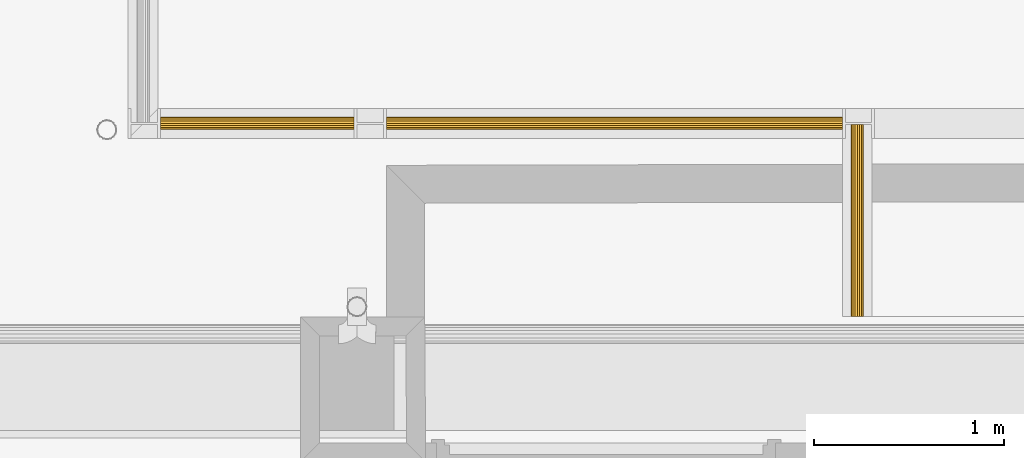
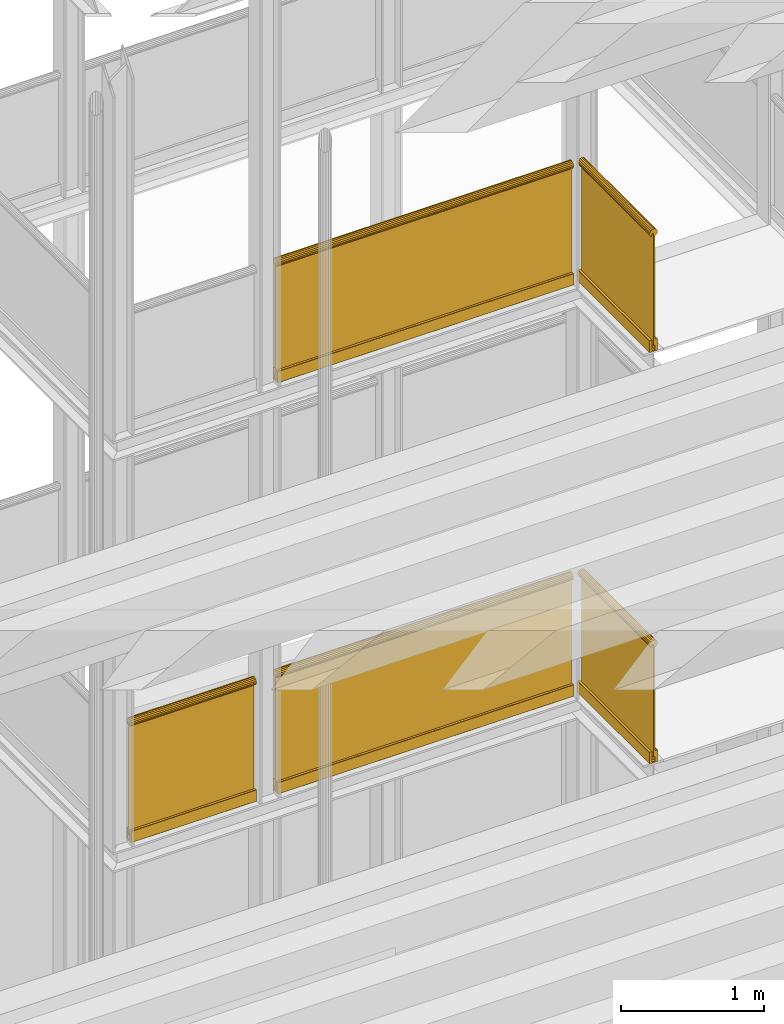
# One storey, part 31 of 108: 5 railings.
"""IFC2X3 building model written with IfcOpenShell, lengths in metres."""

from ifc_helpers import new_model, entity, si_unit, converted_unit, derived_unit, money_unit, direction, frame, origin_with_axes, place, context, subcontext, project, spatial, faceted_brep, material, type_object, element, save


model = new_model("IFC2X3")

# Units and contexts
model_context = context("Model", 3, precision=1e-05, world=origin_with_axes(), true_north=direction((0.0, 1.0)))
body_context = subcontext(model_context, "Body", "Model", "MODEL_VIEW", scale=1.0)
ifc_project = project(units=[si_unit("LENGTHUNIT", "METRE"), si_unit("AREAUNIT", "SQUARE_METRE"), si_unit("VOLUMEUNIT", "CUBIC_METRE"), si_unit("ABSORBEDDOSEUNIT", "GRAY"), si_unit("AMOUNTOFSUBSTANCEUNIT", "MOLE"), si_unit("DOSEEQUIVALENTUNIT", "SIEVERT"), si_unit("ELECTRICCAPACITANCEUNIT", "FARAD"), si_unit("ELECTRICCHARGEUNIT", "COULOMB"), si_unit("ELECTRICCONDUCTANCEUNIT", "SIEMENS"), si_unit("ELECTRICCURRENTUNIT", "AMPERE"), si_unit("ELECTRICRESISTANCEUNIT", "OHM"), si_unit("ELECTRICVOLTAGEUNIT", "VOLT"), si_unit("ENERGYUNIT", "JOULE"), si_unit("FORCEUNIT", "NEWTON"), si_unit("FREQUENCYUNIT", "HERTZ"), si_unit("ILLUMINANCEUNIT", "LUX"), si_unit("INDUCTANCEUNIT", "HENRY"), si_unit("LUMINOUSFLUXUNIT", "LUMEN"), si_unit("LUMINOUSINTENSITYUNIT", "CANDELA"), si_unit("MAGNETICFLUXDENSITYUNIT", "TESLA"), si_unit("MAGNETICFLUXUNIT", "WEBER"), si_unit("MASSUNIT", "GRAM"), converted_unit("PLANEANGLEUNIT", "degree", entity("IfcReal", 0.0174532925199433), si_unit("PLANEANGLEUNIT", "RADIAN"), dimensions=[0, 0, 0, 0, 0, 0, 0]), si_unit("POWERUNIT", "WATT"), si_unit("PRESSUREUNIT", "PASCAL"), si_unit("RADIOACTIVITYUNIT", "BECQUEREL"), si_unit("SOLIDANGLEUNIT", "STERADIAN"), si_unit("THERMODYNAMICTEMPERATUREUNIT", "KELVIN"), si_unit("TIMEUNIT", "SECOND"), derived_unit("ACCELERATIONUNIT", [(si_unit("LENGTHUNIT", "METRE"), 1), (si_unit("TIMEUNIT", "SECOND"), -2)]), derived_unit("ANGULARVELOCITYUNIT", [(converted_unit("PLANEANGLEUNIT", "degree", entity("IfcReal", 0.0174532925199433), si_unit("PLANEANGLEUNIT", "RADIAN"), dimensions=[0, 0, 0, 0, 0, 0, 0]), 1), (si_unit("TIMEUNIT", "SECOND"), -1)]), derived_unit("CURVATUREUNIT", [(converted_unit("PLANEANGLEUNIT", "degree", entity("IfcReal", 0.0174532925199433), si_unit("PLANEANGLEUNIT", "RADIAN"), dimensions=[0, 0, 0, 0, 0, 0, 0]), 1), (si_unit("LENGTHUNIT", "METRE"), -1)]), derived_unit("DYNAMICVISCOSITYUNIT", [(si_unit("PRESSUREUNIT", "PASCAL"), 1), (si_unit("TIMEUNIT", "SECOND"), 1)]), derived_unit("HEATFLUXDENSITYUNIT", [(si_unit("POWERUNIT", "WATT"), 1), (si_unit("LENGTHUNIT", "METRE"), -2)]), derived_unit("HEATINGVALUEUNIT", [(si_unit("ENERGYUNIT", "JOULE"), 1), (si_unit("MASSUNIT", "GRAM"), -1)]), derived_unit("INTEGERCOUNTRATEUNIT", [(si_unit("TIMEUNIT", "SECOND"), -1)]), derived_unit("IONCONCENTRATIONUNIT", [(si_unit("MASSUNIT", "GRAM"), 1), (si_unit("VOLUMEUNIT", "CUBIC_METRE"), -1)]), derived_unit("ISOTHERMALMOISTURECAPACITYUNIT", [(si_unit("VOLUMEUNIT", "CUBIC_METRE"), 1), (si_unit("MASSUNIT", "GRAM"), -1)]), derived_unit("KINEMATICVISCOSITYUNIT", [(si_unit("AREAUNIT", "SQUARE_METRE"), 1), (si_unit("TIMEUNIT", "SECOND"), -1)]), derived_unit("LINEARFORCEUNIT", [(si_unit("FORCEUNIT", "NEWTON"), 1), (si_unit("LENGTHUNIT", "METRE"), -1)]), derived_unit("LINEARMOMENTUNIT", [(si_unit("FORCEUNIT", "NEWTON"), 1), (si_unit("LENGTHUNIT", "METRE"), -1)]), derived_unit("LINEARSTIFFNESSUNIT", [(si_unit("FORCEUNIT", "NEWTON"), 1), (si_unit("LENGTHUNIT", "METRE"), -1)]), derived_unit("LINEARVELOCITYUNIT", [(si_unit("LENGTHUNIT", "METRE"), 1), (si_unit("TIMEUNIT", "SECOND"), -1)]), derived_unit("LUMINOUSINTENSITYDISTRIBUTIONUNIT", [(si_unit("LUMINOUSINTENSITYUNIT", "CANDELA"), 1), (si_unit("LUMINOUSFLUXUNIT", "LUMEN"), -1)]), derived_unit("MASSDENSITYUNIT", [(si_unit("MASSUNIT", "GRAM"), 1), (si_unit("VOLUMEUNIT", "CUBIC_METRE"), -1)]), derived_unit("MASSFLOWRATEUNIT", [(si_unit("MASSUNIT", "GRAM"), 1), (si_unit("TIMEUNIT", "SECOND"), -1)]), derived_unit("MASSPERLENGTHUNIT", [(si_unit("MASSUNIT", "GRAM"), 1), (si_unit("LENGTHUNIT", "METRE"), -1)]), derived_unit("MODULUSOFELASTICITYUNIT", [(si_unit("FORCEUNIT", "NEWTON"), 1), (si_unit("AREAUNIT", "SQUARE_METRE"), -1)]), derived_unit("MODULUSOFLINEARSUBGRADEREACTIONUNIT", [(si_unit("FORCEUNIT", "NEWTON"), 1), (si_unit("LENGTHUNIT", "METRE"), -2)]), derived_unit("MODULUSOFROTATIONALSUBGRADEREACTIONUNIT", [(si_unit("FORCEUNIT", "NEWTON"), 1), (si_unit("LENGTHUNIT", "METRE"), 1)]), derived_unit("MODULUSOFSUBGRADEREACTIONUNIT", [(si_unit("FORCEUNIT", "NEWTON"), 1), (si_unit("VOLUMEUNIT", "CUBIC_METRE"), -1)]), derived_unit("MOISTUREDIFFUSIVITYUNIT", [(si_unit("VOLUMEUNIT", "CUBIC_METRE"), 1), (si_unit("TIMEUNIT", "SECOND"), -1)]), derived_unit("MOLECULARWEIGHTUNIT", [(si_unit("MASSUNIT", "GRAM"), 1), (si_unit("AMOUNTOFSUBSTANCEUNIT", "MOLE"), -1)]), derived_unit("PLANARFORCEUNIT", [(si_unit("FORCEUNIT", "NEWTON"), 1), (si_unit("LENGTHUNIT", "METRE"), -2)]), derived_unit("ROTATIONALFREQUENCYUNIT", [(si_unit("TIMEUNIT", "SECOND"), -1)]), derived_unit("ROTATIONALMASSUNIT", [(si_unit("MASSUNIT", "GRAM"), 1), (si_unit("LENGTHUNIT", "METRE"), 2)]), derived_unit("ROTATIONALSTIFFNESSUNIT", [(si_unit("FORCEUNIT", "NEWTON"), 1), (si_unit("LENGTHUNIT", "METRE"), 1), (converted_unit("PLANEANGLEUNIT", "degree", entity("IfcReal", 0.0174532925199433), si_unit("PLANEANGLEUNIT", "RADIAN"), dimensions=[0, 0, 0, 0, 0, 0, 0]), -1)]), derived_unit("SECTIONAREAINTEGRALUNIT", [(si_unit("LENGTHUNIT", "METRE"), 5)]), derived_unit("SECTIONMODULUSUNIT", [(si_unit("LENGTHUNIT", "METRE"), 3)]), derived_unit("SHEARMODULUSUNIT", [(si_unit("FORCEUNIT", "NEWTON"), 1), (si_unit("AREAUNIT", "SQUARE_METRE"), -1)]), derived_unit("SOUNDPOWERUNIT", [(si_unit("ENERGYUNIT", "JOULE"), 1), (si_unit("TIMEUNIT", "SECOND"), -1)]), derived_unit("SPECIFICHEATCAPACITYUNIT", [(si_unit("FORCEUNIT", "NEWTON"), 1), (si_unit("MASSUNIT", "GRAM"), -1), (si_unit("THERMODYNAMICTEMPERATUREUNIT", "KELVIN"), -1)]), derived_unit("TEMPERATUREGRADIENTUNIT", [(si_unit("THERMODYNAMICTEMPERATUREUNIT", "KELVIN"), 1), (si_unit("LENGTHUNIT", "METRE"), -1)]), derived_unit("THERMALADMITTANCEUNIT", [(si_unit("POWERUNIT", "WATT"), 1), (si_unit("AREAUNIT", "SQUARE_METRE"), -1), (si_unit("THERMODYNAMICTEMPERATUREUNIT", "KELVIN"), -1)]), derived_unit("THERMALCONDUCTANCEUNIT", [(si_unit("POWERUNIT", "WATT"), 1), (si_unit("LENGTHUNIT", "METRE"), -1), (si_unit("THERMODYNAMICTEMPERATUREUNIT", "KELVIN"), -1)]), derived_unit("THERMALEXPANSIONCOEFFICIENTUNIT", [(si_unit("THERMODYNAMICTEMPERATUREUNIT", "KELVIN"), -1)]), derived_unit("THERMALRESISTANCEUNIT", [(si_unit("AREAUNIT", "SQUARE_METRE"), 1), (si_unit("POWERUNIT", "WATT"), -1)]), derived_unit("THERMALTRANSMITTANCEUNIT", [(si_unit("POWERUNIT", "WATT"), 1), (si_unit("AREAUNIT", "SQUARE_METRE"), -1), (si_unit("THERMODYNAMICTEMPERATUREUNIT", "KELVIN"), -1)]), derived_unit("TORQUEUNIT", [(si_unit("FORCEUNIT", "NEWTON"), 1), (si_unit("LENGTHUNIT", "METRE"), 1)]), derived_unit("VAPORPERMEABILITYUNIT", [(si_unit("MASSUNIT", "GRAM"), 1), (si_unit("TIMEUNIT", "SECOND"), -1)]), derived_unit("VOLUMETRICFLOWRATEUNIT", [(si_unit("VOLUMEUNIT", "CUBIC_METRE"), 1), (si_unit("TIMEUNIT", "SECOND"), -1)]), derived_unit("WARPINGCONSTANTUNIT", [(si_unit("LENGTHUNIT", "METRE"), 6)]), derived_unit("WARPINGMOMENTUNIT", [(si_unit("FORCEUNIT", "NEWTON"), 1), (si_unit("LENGTHUNIT", "METRE"), 2)]), money_unit("GBP")], contexts=[model_context])

# Site, building, storey
site_placement = place(None, origin_with_axes())
site = spatial("IfcSite", under=ifc_project, at=site_placement, Name="Site", CompositionType="ELEMENT")
building_placement = place(site_placement, origin_with_axes())
building = spatial("IfcBuilding", under=site, at=building_placement, Name="Building01", CompositionType="ELEMENT")
storey_placement = place(building_placement, origin_with_axes())
storey = spatial("IfcBuildingStorey", under=building, at=storey_placement, Name="GF", CompositionType="ELEMENT", Elevation=0.0)

# Railings
ifc_material = material(Name="A_BSUK_Steel_Miscellaneous")
railing_type = type_object("IfcRailingType", Name="A-RailingGlassPanel-1050mm", PredefinedType="NOTDEFINED")
railing_1_placement = place(storey_placement, frame((24.848535, 14.9, 8.587442), z_axis=(0.0, 0.0, 1.0), x_axis=(1.0, 0.0, 0.0)))
element("IfcRailing", 1, at=railing_1_placement, inside=storey, type_object=railing_type, material=ifc_material, Name="A-RailingGlassPanel-1050mm", ObjectType="A-RailingGlassPanel-1050mm", PredefinedType="HANDRAIL", context=body_context, shape_type="Brep", body=[
    faceted_brep([(-0.0125, 1.010381, 0.9875), (-0.0125, 0.0, 0.9875), (-0.023022, 0.0, 0.99456), (-0.023022, 1.010381, 0.99456), (-0.030045, 0.0, 1.005108), (-0.030045, 1.010381, 1.005108), (-0.0325, 0.0, 1.017539), (-0.0325, 1.010381, 1.017539), (-0.030015, 0.0, 1.029964), (-0.030015, 1.010381, 1.029964), (-0.022967, 0.0, 1.040495), (-0.022967, 1.010381, 1.040495), (-0.012428, 0.0, 1.04753), (-0.012428, 1.010381, 1.04753), (0.0, 0.0, 1.05), (0.0, 1.010381, 1.05), (0.012428, 0.0, 1.04753), (0.012428, 1.010381, 1.04753), (0.022967, 0.0, 1.040495), (0.022967, 1.010381, 1.040495), (0.030015, 0.0, 1.029964), (0.030015, 1.010381, 1.029964), (0.0325, 0.0, 1.017539), (0.0325, 1.010381, 1.017539), (0.030045, 0.0, 1.005108), (0.030045, 1.010381, 1.005108), (0.023022, 0.0, 0.99456), (0.023022, 1.010381, 0.99456), (0.0125, 0.0, 0.9875), (0.0125, 1.010381, 0.9875), (-0.0125, 1.010381, 1.0125), (-0.0125, 0.0, 1.0125), (0.0125, 1.010381, 1.0125), (0.0125, 0.0, 1.0125)], [[[0, 1, 2, 3]], [[3, 2, 4, 5]], [[5, 4, 6, 7]], [[7, 6, 8, 9]], [[9, 8, 10, 11]], [[11, 10, 12, 13]], [[13, 12, 14, 15]], [[15, 14, 16, 17]], [[17, 16, 18, 19]], [[19, 18, 20, 21]], [[21, 20, 22, 23]], [[23, 22, 24, 25]], [[25, 24, 26, 27]], [[27, 26, 28, 29]], [[0, 30, 31, 1]], [[30, 32, 33, 31]], [[32, 30, 0, 3, 5, 7, 9, 11, 13, 15, 17, 19, 21, 23, 25, 27, 29]], [[32, 29, 28, 33]], [[28, 26, 24, 22, 20, 18, 16, 14, 12, 10, 8, 6, 4, 2, 1, 31, 33]]]),
    faceted_brep([(-0.0295, 1.010381, 0.099925), (-0.0295, 0.0, 0.099925), (-0.0125, 0.0, 0.099925), (-0.0125, 1.010381, 0.099925), (-0.0325, 1.010381, 0.096925), (-0.0325, 0.0, 0.096925), (-0.032272, 0.0, 0.098073), (-0.032272, 1.010381, 0.098073), (-0.031621, 0.0, 0.099046), (-0.031621, 1.010381, 0.099046), (-0.030648, 0.0, 0.099697), (-0.030648, 1.010381, 0.099697), (-0.0325, 1.010381, 0.003), (-0.0325, 0.0, 0.003), (-0.0295, 1.010381, 0.0), (-0.030648, 1.010381, 0.000228), (-0.031621, 1.010381, 0.000879), (-0.032272, 1.010381, 0.001852), (-0.0125, 1.010381, 0.01), (0.0125, 1.010381, 0.01), (0.0125, 1.010381, 0.099925), (0.0295, 1.010381, 0.099925), (0.030648, 1.010381, 0.099697), (0.031621, 1.010381, 0.099046), (0.032272, 1.010381, 0.098073), (0.0325, 1.010381, 0.096925), (0.0325, 1.010381, 0.003), (0.032272, 1.010381, 0.001852), (0.031621, 1.010381, 0.000879), (0.030648, 1.010381, 0.000228), (0.0295, 1.010381, 0.0), (0.0295, 0.0, 0.0), (0.030648, 0.0, 0.000228), (0.031621, 0.0, 0.000879), (0.032272, 0.0, 0.001852), (0.0325, 0.0, 0.003), (0.0325, 0.0, 0.096925), (0.032272, 0.0, 0.098073), (0.031621, 0.0, 0.099046), (0.030648, 0.0, 0.099697), (0.0295, 0.0, 0.099925), (0.0125, 0.0, 0.099925), (0.0125, 0.0, 0.01), (-0.0125, 0.0, 0.01), (-0.032272, 0.0, 0.001852), (-0.031621, 0.0, 0.000879), (-0.030648, 0.0, 0.000228), (-0.0295, 0.0, 0.0)], [[[0, 1, 2, 3]], [[4, 5, 6, 7]], [[7, 6, 8, 9]], [[9, 8, 10, 11]], [[11, 10, 1, 0]], [[4, 12, 13, 5]], [[14, 15, 16, 17, 12, 4, 7, 9, 11, 0, 3, 18, 19, 20, 21, 22, 23, 24, 25, 26, 27, 28, 29, 30]], [[31, 32, 33, 34, 35, 36, 37, 38, 39, 40, 41, 42, 43, 2, 1, 10, 8, 6, 5, 13, 44, 45, 46, 47]], [[14, 47, 46, 15]], [[15, 46, 45, 16]], [[16, 45, 44, 17]], [[17, 44, 13, 12]], [[14, 30, 31, 47]], [[26, 35, 34, 27]], [[27, 34, 33, 28]], [[28, 33, 32, 29]], [[29, 32, 31, 30]], [[26, 25, 36, 35]], [[21, 40, 39, 22]], [[22, 39, 38, 23]], [[23, 38, 37, 24]], [[24, 37, 36, 25]], [[21, 20, 41, 40]], [[20, 19, 42, 41]], [[19, 18, 43, 42]], [[18, 3, 2, 43]]]),
    faceted_brep([(0.0, 0.0, 0.05), (0.0, 0.0, 1.025), (0.0, 1.010381, 1.025), (0.0, 1.010381, 0.05), (0.01, 1.010381, 0.05), (0.01, 1.010381, 1.025), (0.01, 0.0, 1.025), (0.01, 0.0, 0.05)], [[[0, 1, 2, 3]], [[4, 5, 6, 7]], [[0, 7, 6, 1]], [[1, 6, 5, 2]], [[2, 5, 4, 3]], [[3, 4, 7, 0]]]),
])
railing_2_placement = place(storey_placement, frame((24.848535, 14.9, 5.064467), z_axis=(0.0, 0.0, 1.0), x_axis=(1.0, 0.0, 0.0)))
element("IfcRailing", 2, at=railing_2_placement, inside=storey, type_object=railing_type, material=ifc_material, Name="A-RailingGlassPanel-1050mm", ObjectType="A-RailingGlassPanel-1050mm", PredefinedType="HANDRAIL", context=body_context, shape_type="Brep", body=[
    faceted_brep([(-0.0125, 1.010381, 0.9875), (-0.0125, 0.0, 0.9875), (-0.023022, 0.0, 0.99456), (-0.023022, 1.010381, 0.99456), (-0.030045, 0.0, 1.005108), (-0.030045, 1.010381, 1.005108), (-0.0325, 0.0, 1.017539), (-0.0325, 1.010381, 1.017539), (-0.030015, 0.0, 1.029964), (-0.030015, 1.010381, 1.029964), (-0.022967, 0.0, 1.040495), (-0.022967, 1.010381, 1.040495), (-0.012428, 0.0, 1.04753), (-0.012428, 1.010381, 1.04753), (0.0, 0.0, 1.05), (0.0, 1.010381, 1.05), (0.012428, 0.0, 1.04753), (0.012428, 1.010381, 1.04753), (0.022967, 0.0, 1.040495), (0.022967, 1.010381, 1.040495), (0.030015, 0.0, 1.029964), (0.030015, 1.010381, 1.029964), (0.0325, 0.0, 1.017539), (0.0325, 1.010381, 1.017539), (0.030045, 0.0, 1.005108), (0.030045, 1.010381, 1.005108), (0.023022, 0.0, 0.99456), (0.023022, 1.010381, 0.99456), (0.0125, 0.0, 0.9875), (0.0125, 1.010381, 0.9875), (-0.0125, 1.010381, 1.0125), (-0.0125, 0.0, 1.0125), (0.0125, 1.010381, 1.0125), (0.0125, 0.0, 1.0125)], [[[0, 1, 2, 3]], [[3, 2, 4, 5]], [[5, 4, 6, 7]], [[7, 6, 8, 9]], [[9, 8, 10, 11]], [[11, 10, 12, 13]], [[13, 12, 14, 15]], [[15, 14, 16, 17]], [[17, 16, 18, 19]], [[19, 18, 20, 21]], [[21, 20, 22, 23]], [[23, 22, 24, 25]], [[25, 24, 26, 27]], [[27, 26, 28, 29]], [[0, 30, 31, 1]], [[30, 32, 33, 31]], [[32, 30, 0, 3, 5, 7, 9, 11, 13, 15, 17, 19, 21, 23, 25, 27, 29]], [[32, 29, 28, 33]], [[28, 26, 24, 22, 20, 18, 16, 14, 12, 10, 8, 6, 4, 2, 1, 31, 33]]]),
    faceted_brep([(-0.0295, 1.010381, 0.099925), (-0.0295, 0.0, 0.099925), (-0.0125, 0.0, 0.099925), (-0.0125, 1.010381, 0.099925), (-0.0325, 1.010381, 0.096925), (-0.0325, 0.0, 0.096925), (-0.032272, 0.0, 0.098073), (-0.032272, 1.010381, 0.098073), (-0.031621, 0.0, 0.099046), (-0.031621, 1.010381, 0.099046), (-0.030648, 0.0, 0.099697), (-0.030648, 1.010381, 0.099697), (-0.0325, 1.010381, 0.003), (-0.0325, 0.0, 0.003), (-0.0295, 1.010381, 0.0), (-0.030648, 1.010381, 0.000228), (-0.031621, 1.010381, 0.000879), (-0.032272, 1.010381, 0.001852), (-0.0125, 1.010381, 0.01), (0.0125, 1.010381, 0.01), (0.0125, 1.010381, 0.099925), (0.0295, 1.010381, 0.099925), (0.030648, 1.010381, 0.099697), (0.031621, 1.010381, 0.099046), (0.032272, 1.010381, 0.098073), (0.0325, 1.010381, 0.096925), (0.0325, 1.010381, 0.003), (0.032272, 1.010381, 0.001852), (0.031621, 1.010381, 0.000879), (0.030648, 1.010381, 0.000228), (0.0295, 1.010381, 0.0), (0.0295, 0.0, 0.0), (0.030648, 0.0, 0.000228), (0.031621, 0.0, 0.000879), (0.032272, 0.0, 0.001852), (0.0325, 0.0, 0.003), (0.0325, 0.0, 0.096925), (0.032272, 0.0, 0.098073), (0.031621, 0.0, 0.099046), (0.030648, 0.0, 0.099697), (0.0295, 0.0, 0.099925), (0.0125, 0.0, 0.099925), (0.0125, 0.0, 0.01), (-0.0125, 0.0, 0.01), (-0.032272, 0.0, 0.001852), (-0.031621, 0.0, 0.000879), (-0.030648, 0.0, 0.000228), (-0.0295, 0.0, 0.0)], [[[0, 1, 2, 3]], [[4, 5, 6, 7]], [[7, 6, 8, 9]], [[9, 8, 10, 11]], [[11, 10, 1, 0]], [[4, 12, 13, 5]], [[14, 15, 16, 17, 12, 4, 7, 9, 11, 0, 3, 18, 19, 20, 21, 22, 23, 24, 25, 26, 27, 28, 29, 30]], [[31, 32, 33, 34, 35, 36, 37, 38, 39, 40, 41, 42, 43, 2, 1, 10, 8, 6, 5, 13, 44, 45, 46, 47]], [[14, 47, 46, 15]], [[15, 46, 45, 16]], [[16, 45, 44, 17]], [[17, 44, 13, 12]], [[14, 30, 31, 47]], [[26, 35, 34, 27]], [[27, 34, 33, 28]], [[28, 33, 32, 29]], [[29, 32, 31, 30]], [[26, 25, 36, 35]], [[21, 40, 39, 22]], [[22, 39, 38, 23]], [[23, 38, 37, 24]], [[24, 37, 36, 25]], [[21, 20, 41, 40]], [[20, 19, 42, 41]], [[19, 18, 43, 42]], [[18, 3, 2, 43]]]),
    faceted_brep([(0.0, 0.0, 0.05), (0.0, 0.0, 1.025), (0.0, 1.010381, 1.025), (0.0, 1.010381, 0.05), (0.01, 1.010381, 0.05), (0.01, 1.010381, 1.025), (0.01, 0.0, 1.025), (0.01, 0.0, 0.05)], [[[0, 1, 2, 3]], [[4, 5, 6, 7]], [[0, 7, 6, 1]], [[1, 6, 5, 2]], [[2, 5, 4, 3]], [[3, 4, 7, 0]]]),
])
railing_3_placement = place(storey_placement, frame((24.769835, 15.915881, 8.587442), z_axis=(0.0, 0.0, 1.0), x_axis=(1.0, 0.0, 0.0)))
element("IfcRailing", 3, at=railing_3_placement, inside=storey, type_object=railing_type, material=ifc_material, Name="A-RailingGlassPanel-1050mm", ObjectType="A-RailingGlassPanel-1050mm", PredefinedType="HANDRAIL", context=body_context, shape_type="Brep", body=[
    faceted_brep([(-2.3998, -0.0125, 0.9875), (0.0, -0.0125, 0.9875), (0.0, -0.023022, 0.99456), (-2.3998, -0.023022, 0.99456), (0.0, -0.030045, 1.005108), (-2.3998, -0.030045, 1.005108), (0.0, -0.0325, 1.017539), (-2.3998, -0.0325, 1.017539), (0.0, -0.030015, 1.029964), (-2.3998, -0.030015, 1.029964), (0.0, -0.022967, 1.040495), (-2.3998, -0.022967, 1.040495), (0.0, -0.012428, 1.04753), (-2.3998, -0.012428, 1.04753), (0.0, 0.0, 1.05), (-2.3998, 0.0, 1.05), (0.0, 0.012428, 1.04753), (-2.3998, 0.012428, 1.04753), (0.0, 0.022967, 1.040495), (-2.3998, 0.022967, 1.040495), (0.0, 0.030015, 1.029964), (-2.3998, 0.030015, 1.029964), (0.0, 0.0325, 1.017539), (-2.3998, 0.0325, 1.017539), (0.0, 0.030045, 1.005108), (-2.3998, 0.030045, 1.005108), (0.0, 0.023022, 0.99456), (-2.3998, 0.023022, 0.99456), (0.0, 0.0125, 0.9875), (-2.3998, 0.0125, 0.9875), (-2.3998, -0.0125, 1.0125), (0.0, -0.0125, 1.0125), (-2.3998, 0.0125, 1.0125), (0.0, 0.0125, 1.0125)], [[[0, 1, 2, 3]], [[3, 2, 4, 5]], [[5, 4, 6, 7]], [[7, 6, 8, 9]], [[9, 8, 10, 11]], [[11, 10, 12, 13]], [[13, 12, 14, 15]], [[15, 14, 16, 17]], [[17, 16, 18, 19]], [[19, 18, 20, 21]], [[21, 20, 22, 23]], [[23, 22, 24, 25]], [[25, 24, 26, 27]], [[27, 26, 28, 29]], [[0, 30, 31, 1]], [[30, 32, 33, 31]], [[32, 30, 0, 3, 5, 7, 9, 11, 13, 15, 17, 19, 21, 23, 25, 27, 29]], [[32, 29, 28, 33]], [[28, 26, 24, 22, 20, 18, 16, 14, 12, 10, 8, 6, 4, 2, 1, 31, 33]]]),
    faceted_brep([(-2.3998, -0.0295, 0.099925), (0.0, -0.0295, 0.099925), (0.0, -0.0125, 0.099925), (-2.3998, -0.0125, 0.099925), (-2.3998, -0.0325, 0.096925), (0.0, -0.0325, 0.096925), (0.0, -0.032272, 0.098073), (-2.3998, -0.032272, 0.098073), (0.0, -0.031621, 0.099046), (-2.3998, -0.031621, 0.099046), (0.0, -0.030648, 0.099697), (-2.3998, -0.030648, 0.099697), (-2.3998, -0.0325, 0.003), (0.0, -0.0325, 0.003), (-2.3998, -0.0295, 0.0), (-2.3998, -0.030648, 0.000228), (-2.3998, -0.031621, 0.000879), (-2.3998, -0.032272, 0.001852), (-2.3998, -0.0125, 0.01), (-2.3998, 0.0125, 0.01), (-2.3998, 0.0125, 0.099925), (-2.3998, 0.0295, 0.099925), (-2.3998, 0.030648, 0.099697), (-2.3998, 0.031621, 0.099046), (-2.3998, 0.032272, 0.098073), (-2.3998, 0.0325, 0.096925), (-2.3998, 0.0325, 0.003), (-2.3998, 0.032272, 0.001852), (-2.3998, 0.031621, 0.000879), (-2.3998, 0.030648, 0.000228), (-2.3998, 0.0295, 0.0), (0.0, 0.0295, 0.0), (0.0, 0.030648, 0.000228), (0.0, 0.031621, 0.000879), (0.0, 0.032272, 0.001852), (0.0, 0.0325, 0.003), (0.0, 0.0325, 0.096925), (0.0, 0.032272, 0.098073), (0.0, 0.031621, 0.099046), (0.0, 0.030648, 0.099697), (0.0, 0.0295, 0.099925), (0.0, 0.0125, 0.099925), (0.0, 0.0125, 0.01), (0.0, -0.0125, 0.01), (0.0, -0.032272, 0.001852), (0.0, -0.031621, 0.000879), (0.0, -0.030648, 0.000228), (0.0, -0.0295, 0.0)], [[[0, 1, 2, 3]], [[4, 5, 6, 7]], [[7, 6, 8, 9]], [[9, 8, 10, 11]], [[11, 10, 1, 0]], [[4, 12, 13, 5]], [[14, 15, 16, 17, 12, 4, 7, 9, 11, 0, 3, 18, 19, 20, 21, 22, 23, 24, 25, 26, 27, 28, 29, 30]], [[31, 32, 33, 34, 35, 36, 37, 38, 39, 40, 41, 42, 43, 2, 1, 10, 8, 6, 5, 13, 44, 45, 46, 47]], [[14, 47, 46, 15]], [[15, 46, 45, 16]], [[16, 45, 44, 17]], [[17, 44, 13, 12]], [[14, 30, 31, 47]], [[26, 35, 34, 27]], [[27, 34, 33, 28]], [[28, 33, 32, 29]], [[29, 32, 31, 30]], [[26, 25, 36, 35]], [[21, 40, 39, 22]], [[22, 39, 38, 23]], [[23, 38, 37, 24]], [[24, 37, 36, 25]], [[21, 20, 41, 40]], [[20, 19, 42, 41]], [[19, 18, 43, 42]], [[18, 3, 2, 43]]]),
    faceted_brep([(0.0, 0.0, 0.05), (0.0, 0.0, 1.025), (-2.3998, 0.0, 1.025), (-2.3998, 0.0, 0.05), (-2.3998, 0.01, 0.05), (-2.3998, 0.01, 1.025), (0.0, 0.01, 1.025), (0.0, 0.01, 0.05)], [[[0, 1, 2, 3]], [[4, 5, 6, 7]], [[0, 7, 6, 1]], [[1, 6, 5, 2]], [[2, 5, 4, 3]], [[3, 4, 7, 0]]]),
])
railing_4_placement = place(storey_placement, frame((24.769835, 15.915881, 5.064467), z_axis=(0.0, 0.0, 1.0), x_axis=(1.0, 0.0, 0.0)))
element("IfcRailing", 4, at=railing_4_placement, inside=storey, type_object=railing_type, material=ifc_material, Name="A-RailingGlassPanel-1050mm", ObjectType="A-RailingGlassPanel-1050mm", PredefinedType="HANDRAIL", context=body_context, shape_type="Brep", body=[
    faceted_brep([(-2.3998, -0.0125, 0.9875), (0.0, -0.0125, 0.9875), (0.0, -0.023022, 0.99456), (-2.3998, -0.023022, 0.99456), (0.0, -0.030045, 1.005108), (-2.3998, -0.030045, 1.005108), (0.0, -0.0325, 1.017539), (-2.3998, -0.0325, 1.017539), (0.0, -0.030015, 1.029964), (-2.3998, -0.030015, 1.029964), (0.0, -0.022967, 1.040495), (-2.3998, -0.022967, 1.040495), (0.0, -0.012428, 1.04753), (-2.3998, -0.012428, 1.04753), (0.0, 0.0, 1.05), (-2.3998, 0.0, 1.05), (0.0, 0.012428, 1.04753), (-2.3998, 0.012428, 1.04753), (0.0, 0.022967, 1.040495), (-2.3998, 0.022967, 1.040495), (0.0, 0.030015, 1.029964), (-2.3998, 0.030015, 1.029964), (0.0, 0.0325, 1.017539), (-2.3998, 0.0325, 1.017539), (0.0, 0.030045, 1.005108), (-2.3998, 0.030045, 1.005108), (0.0, 0.023022, 0.99456), (-2.3998, 0.023022, 0.99456), (0.0, 0.0125, 0.9875), (-2.3998, 0.0125, 0.9875), (-2.3998, -0.0125, 1.0125), (0.0, -0.0125, 1.0125), (-2.3998, 0.0125, 1.0125), (0.0, 0.0125, 1.0125)], [[[0, 1, 2, 3]], [[3, 2, 4, 5]], [[5, 4, 6, 7]], [[7, 6, 8, 9]], [[9, 8, 10, 11]], [[11, 10, 12, 13]], [[13, 12, 14, 15]], [[15, 14, 16, 17]], [[17, 16, 18, 19]], [[19, 18, 20, 21]], [[21, 20, 22, 23]], [[23, 22, 24, 25]], [[25, 24, 26, 27]], [[27, 26, 28, 29]], [[0, 30, 31, 1]], [[30, 32, 33, 31]], [[32, 30, 0, 3, 5, 7, 9, 11, 13, 15, 17, 19, 21, 23, 25, 27, 29]], [[32, 29, 28, 33]], [[28, 26, 24, 22, 20, 18, 16, 14, 12, 10, 8, 6, 4, 2, 1, 31, 33]]]),
    faceted_brep([(-2.3998, -0.0295, 0.099925), (0.0, -0.0295, 0.099925), (0.0, -0.0125, 0.099925), (-2.3998, -0.0125, 0.099925), (-2.3998, -0.0325, 0.096925), (0.0, -0.0325, 0.096925), (0.0, -0.032272, 0.098073), (-2.3998, -0.032272, 0.098073), (0.0, -0.031621, 0.099046), (-2.3998, -0.031621, 0.099046), (0.0, -0.030648, 0.099697), (-2.3998, -0.030648, 0.099697), (-2.3998, -0.0325, 0.003), (0.0, -0.0325, 0.003), (-2.3998, -0.0295, 0.0), (-2.3998, -0.030648, 0.000228), (-2.3998, -0.031621, 0.000879), (-2.3998, -0.032272, 0.001852), (-2.3998, -0.0125, 0.01), (-2.3998, 0.0125, 0.01), (-2.3998, 0.0125, 0.099925), (-2.3998, 0.0295, 0.099925), (-2.3998, 0.030648, 0.099697), (-2.3998, 0.031621, 0.099046), (-2.3998, 0.032272, 0.098073), (-2.3998, 0.0325, 0.096925), (-2.3998, 0.0325, 0.003), (-2.3998, 0.032272, 0.001852), (-2.3998, 0.031621, 0.000879), (-2.3998, 0.030648, 0.000228), (-2.3998, 0.0295, 0.0), (0.0, 0.0295, 0.0), (0.0, 0.030648, 0.000228), (0.0, 0.031621, 0.000879), (0.0, 0.032272, 0.001852), (0.0, 0.0325, 0.003), (0.0, 0.0325, 0.096925), (0.0, 0.032272, 0.098073), (0.0, 0.031621, 0.099046), (0.0, 0.030648, 0.099697), (0.0, 0.0295, 0.099925), (0.0, 0.0125, 0.099925), (0.0, 0.0125, 0.01), (0.0, -0.0125, 0.01), (0.0, -0.032272, 0.001852), (0.0, -0.031621, 0.000879), (0.0, -0.030648, 0.000228), (0.0, -0.0295, 0.0)], [[[0, 1, 2, 3]], [[4, 5, 6, 7]], [[7, 6, 8, 9]], [[9, 8, 10, 11]], [[11, 10, 1, 0]], [[4, 12, 13, 5]], [[14, 15, 16, 17, 12, 4, 7, 9, 11, 0, 3, 18, 19, 20, 21, 22, 23, 24, 25, 26, 27, 28, 29, 30]], [[31, 32, 33, 34, 35, 36, 37, 38, 39, 40, 41, 42, 43, 2, 1, 10, 8, 6, 5, 13, 44, 45, 46, 47]], [[14, 47, 46, 15]], [[15, 46, 45, 16]], [[16, 45, 44, 17]], [[17, 44, 13, 12]], [[14, 30, 31, 47]], [[26, 35, 34, 27]], [[27, 34, 33, 28]], [[28, 33, 32, 29]], [[29, 32, 31, 30]], [[26, 25, 36, 35]], [[21, 40, 39, 22]], [[22, 39, 38, 23]], [[23, 38, 37, 24]], [[24, 37, 36, 25]], [[21, 20, 41, 40]], [[20, 19, 42, 41]], [[19, 18, 43, 42]], [[18, 3, 2, 43]]]),
    faceted_brep([(0.0, 0.0, 0.05), (0.0, 0.0, 1.025), (-2.3998, 0.0, 1.025), (-2.3998, 0.0, 0.05), (-2.3998, 0.01, 0.05), (-2.3998, 0.01, 1.025), (0.0, 0.01, 1.025), (0.0, 0.01, 0.05)], [[[0, 1, 2, 3]], [[4, 5, 6, 7]], [[0, 7, 6, 1]], [[1, 6, 5, 2]], [[2, 5, 4, 3]], [[3, 4, 7, 0]]]),
])
railing_5_placement = place(storey_placement, frame((22.199835, 15.915881, 5.064467), z_axis=(0.0, 0.0, 1.0), x_axis=(1.0, 0.0, 0.0)))
element("IfcRailing", 5, at=railing_5_placement, inside=storey, type_object=railing_type, material=ifc_material, Name="A-RailingGlassPanel-1050mm", ObjectType="A-RailingGlassPanel-1050mm", PredefinedType="HANDRAIL", context=body_context, shape_type="Brep", body=[
    faceted_brep([(-1.018201, -0.0125, 0.9875), (0.0, -0.0125, 0.9875), (0.0, -0.023022, 0.99456), (-1.018201, -0.023022, 0.99456), (0.0, -0.030045, 1.005108), (-1.018201, -0.030045, 1.005108), (0.0, -0.0325, 1.017539), (-1.018201, -0.0325, 1.017539), (0.0, -0.030015, 1.029964), (-1.018201, -0.030015, 1.029964), (0.0, -0.022967, 1.040495), (-1.018201, -0.022967, 1.040495), (0.0, -0.012428, 1.04753), (-1.018201, -0.012428, 1.04753), (0.0, 0.0, 1.05), (-1.018201, 0.0, 1.05), (0.0, 0.012428, 1.04753), (-1.018201, 0.012428, 1.04753), (0.0, 0.022967, 1.040495), (-1.018201, 0.022967, 1.040495), (0.0, 0.030015, 1.029964), (-1.018201, 0.030015, 1.029964), (0.0, 0.0325, 1.017539), (-1.018201, 0.0325, 1.017539), (0.0, 0.030045, 1.005108), (-1.018201, 0.030045, 1.005108), (0.0, 0.023022, 0.99456), (-1.018201, 0.023022, 0.99456), (0.0, 0.0125, 0.9875), (-1.018201, 0.0125, 0.9875), (-1.018201, -0.0125, 1.0125), (0.0, -0.0125, 1.0125), (-1.018201, 0.0125, 1.0125), (0.0, 0.0125, 1.0125)], [[[0, 1, 2, 3]], [[3, 2, 4, 5]], [[5, 4, 6, 7]], [[7, 6, 8, 9]], [[9, 8, 10, 11]], [[11, 10, 12, 13]], [[13, 12, 14, 15]], [[15, 14, 16, 17]], [[17, 16, 18, 19]], [[19, 18, 20, 21]], [[21, 20, 22, 23]], [[23, 22, 24, 25]], [[25, 24, 26, 27]], [[27, 26, 28, 29]], [[0, 30, 31, 1]], [[30, 32, 33, 31]], [[32, 30, 0, 3, 5, 7, 9, 11, 13, 15, 17, 19, 21, 23, 25, 27, 29]], [[32, 29, 28, 33]], [[28, 26, 24, 22, 20, 18, 16, 14, 12, 10, 8, 6, 4, 2, 1, 31, 33]]]),
    faceted_brep([(-1.018201, -0.0295, 0.099925), (0.0, -0.0295, 0.099925), (0.0, -0.0125, 0.099925), (-1.018201, -0.0125, 0.099925), (-1.018201, -0.0325, 0.096925), (0.0, -0.0325, 0.096925), (0.0, -0.032272, 0.098073), (-1.018201, -0.032272, 0.098073), (0.0, -0.031621, 0.099046), (-1.018201, -0.031621, 0.099046), (0.0, -0.030648, 0.099697), (-1.018201, -0.030648, 0.099697), (-1.018201, -0.0325, 0.003), (0.0, -0.0325, 0.003), (-1.018201, -0.0295, 0.0), (-1.018201, -0.030648, 0.000228), (-1.018201, -0.031621, 0.000879), (-1.018201, -0.032272, 0.001852), (-1.018201, -0.0125, 0.01), (-1.018201, 0.0125, 0.01), (-1.018201, 0.0125, 0.099925), (-1.018201, 0.0295, 0.099925), (-1.018201, 0.030648, 0.099697), (-1.018201, 0.031621, 0.099046), (-1.018201, 0.032272, 0.098073), (-1.018201, 0.0325, 0.096925), (-1.018201, 0.0325, 0.003), (-1.018201, 0.032272, 0.001852), (-1.018201, 0.031621, 0.000879), (-1.018201, 0.030648, 0.000228), (-1.018201, 0.0295, 0.0), (0.0, 0.0295, 0.0), (0.0, 0.030648, 0.000228), (0.0, 0.031621, 0.000879), (0.0, 0.032272, 0.001852), (0.0, 0.0325, 0.003), (0.0, 0.0325, 0.096925), (0.0, 0.032272, 0.098073), (0.0, 0.031621, 0.099046), (0.0, 0.030648, 0.099697), (0.0, 0.0295, 0.099925), (0.0, 0.0125, 0.099925), (0.0, 0.0125, 0.01), (0.0, -0.0125, 0.01), (0.0, -0.032272, 0.001852), (0.0, -0.031621, 0.000879), (0.0, -0.030648, 0.000228), (0.0, -0.0295, 0.0)], [[[0, 1, 2, 3]], [[4, 5, 6, 7]], [[7, 6, 8, 9]], [[9, 8, 10, 11]], [[11, 10, 1, 0]], [[4, 12, 13, 5]], [[14, 15, 16, 17, 12, 4, 7, 9, 11, 0, 3, 18, 19, 20, 21, 22, 23, 24, 25, 26, 27, 28, 29, 30]], [[31, 32, 33, 34, 35, 36, 37, 38, 39, 40, 41, 42, 43, 2, 1, 10, 8, 6, 5, 13, 44, 45, 46, 47]], [[14, 47, 46, 15]], [[15, 46, 45, 16]], [[16, 45, 44, 17]], [[17, 44, 13, 12]], [[14, 30, 31, 47]], [[26, 35, 34, 27]], [[27, 34, 33, 28]], [[28, 33, 32, 29]], [[29, 32, 31, 30]], [[26, 25, 36, 35]], [[21, 40, 39, 22]], [[22, 39, 38, 23]], [[23, 38, 37, 24]], [[24, 37, 36, 25]], [[21, 20, 41, 40]], [[20, 19, 42, 41]], [[19, 18, 43, 42]], [[18, 3, 2, 43]]]),
    faceted_brep([(0.0, 0.0, 0.05), (0.0, 0.0, 1.025), (-1.018201, 0.0, 1.025), (-1.018201, 0.0, 0.05), (-1.018201, 0.01, 0.05), (-1.018201, 0.01, 1.025), (0.0, 0.01, 1.025), (0.0, 0.01, 0.05)], [[[0, 1, 2, 3]], [[4, 5, 6, 7]], [[0, 7, 6, 1]], [[1, 6, 5, 2]], [[2, 5, 4, 3]], [[3, 4, 7, 0]]]),
])

save(model, "model.ifc")
